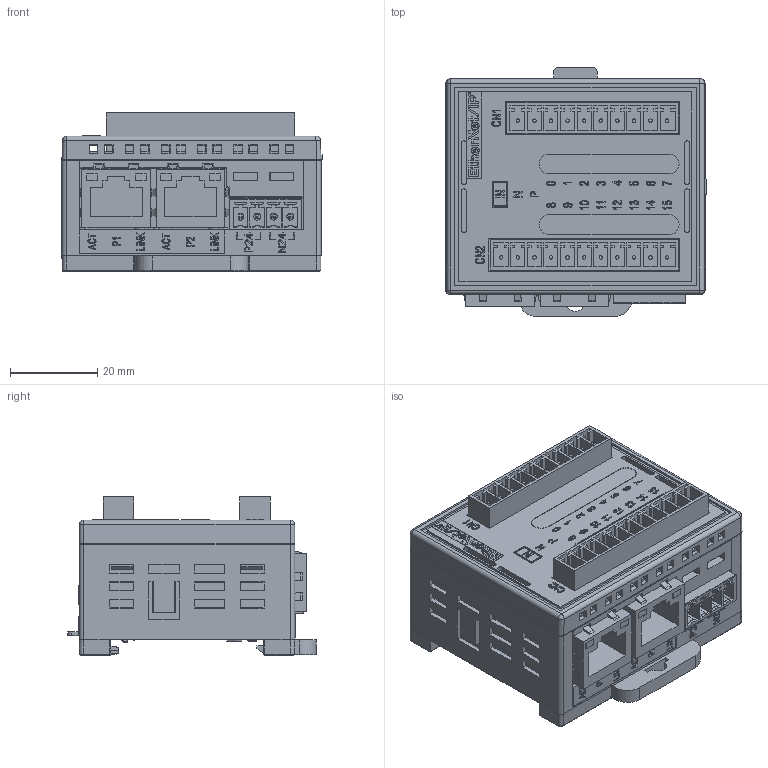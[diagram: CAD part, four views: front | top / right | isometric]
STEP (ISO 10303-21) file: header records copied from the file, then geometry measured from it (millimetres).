
FILE_DESCRIPTION((''),'2;1');
FILE_NAME('EICBPF0','2026-05-11T14:54:40',('gijyu181'),(''),'CREO PARAMETRIC BY PTC INC, 2018050','CREO PARAMETRIC BY PTC INC, 2018050','');
FILE_SCHEMA(('CONFIG_CONTROL_DESIGN','SHAPE_APPEARANCE_LAYERS_GROUPS'));
Products named in the file (1): EICBPF0
Bounding box: 59.75 x 57.15 x 36.3 mm (x, y, z)
Volume: 68583.1 mm3; surface area: 40802.6 mm2
Topology: 1 solids, 17 shells, 6025 faces, 16658 edges, 10999 vertices
Faces by surface type: plane 4413, extrusion 748, cylinder 728, sphere 44, cone 42, torus 26, bspline 24
Entity records: 242514 total; most frequent: CARTESIAN_POINT 42820, ORIENTED_EDGE 33280, DIRECTION 27565, EDGE_CURVE 16644, VECTOR 14089, LINE 13341, VERTEX_POINT 10999, PRESENTATION_STYLE_ASSIGNMENT 9557
